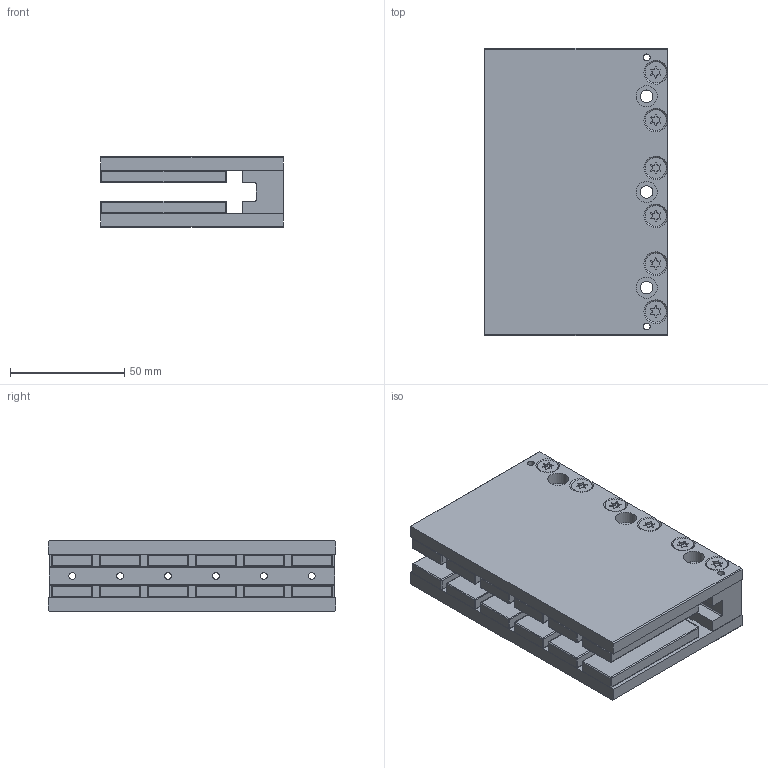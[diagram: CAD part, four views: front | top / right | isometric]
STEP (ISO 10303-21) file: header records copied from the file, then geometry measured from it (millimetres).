
FILE_DESCRIPTION( ( 'Unknown' ), '1' );
FILE_NAME( 'G:/_archief/Cad/_cadsoli/Produkten/U L vacuum/ULV Yoke/Iron Less_ULV_126 mm_MagnetPlate_CAD_140224.stp', 'Unknown', ( 'Unknown' ), ( 'Unknown' ), 'PSStep 16.0.42', 'Unknown', ' ' );
FILE_SCHEMA( ( 'AUTOMOTIVE_DESIGN { 1 0 10303 214 1 1 1 1 }' ) );
Length unit declared in the file: millimetre
Products named in the file (6): 4022 368 13791; 4022 363 70173_100122; 4022 363 50581; Assem1; 4022 363 12851; 2522 203 07034
Assembly tree (22 placements, depth 3):
  Assem1
    4022 363 12851
    2522 203 07034  x12
    4022 368 13791  x2
      4022 363 70173_100122
      4022 363 50581
Bounding box: 80 x 125.92 x 31 mm (x, y, z)
Volume: 216724.6 mm3; surface area: 96636.5 mm2
Topology: 27 solids, 27 shells, 835 faces, 2110 edges, 1233 vertices
Faces by surface type: cylinder 395, plane 302, sphere 96, cone 42
Full cylindrical faces by diameter (mm): 0.01 x12, 3 x18, 4.134 x6, 5 x12, 5.5 x15, 9.2 x18
Entity records: 7352 total; most frequent: CARTESIAN_POINT 1909, DIRECTION 898, ORIENTED_EDGE 802, EDGE_CURVE 401, AXIS2_PLACEMENT_3D 352, VERTEX_POINT 283, EDGE_LOOP 268, FACE_OUTER_BOUND 200
